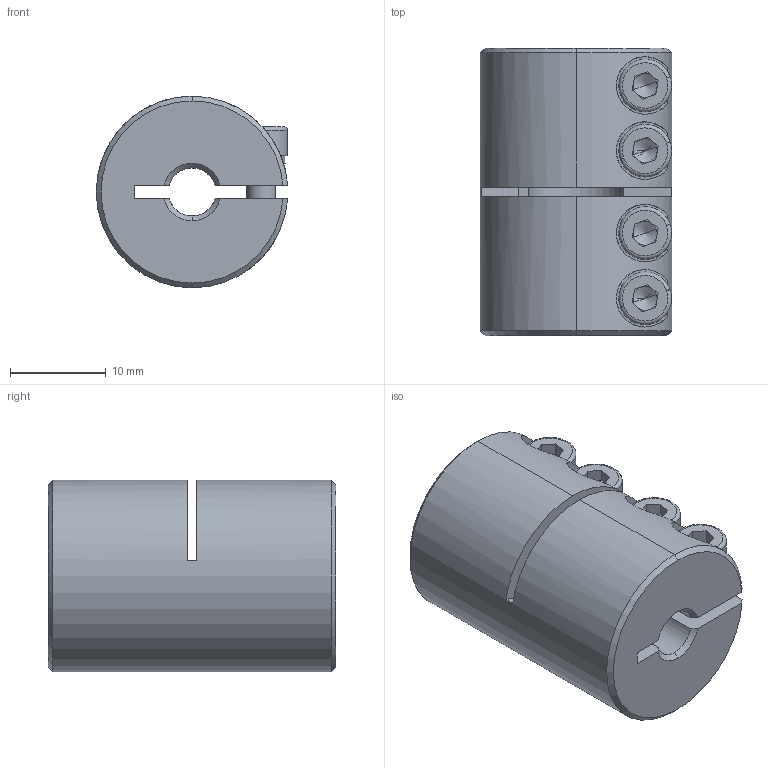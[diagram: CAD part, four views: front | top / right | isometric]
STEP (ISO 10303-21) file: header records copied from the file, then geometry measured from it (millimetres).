
FILE_DESCRIPTION (( 'STEP AP203' ), '1' );
FILE_NAME ('LL-B-D20L30-5-10.STEP', '2021-11-05T03:09:28', ( '' ), ( '' ), 'SwSTEP 2.0', 'SolidWorks 2018', '' );
FILE_SCHEMA (( 'CONFIG_CONTROL_DESIGN' ));
Length unit declared in the file: millimetre
Products named in the file (1): LL-B-D20L30-5-10
Bounding box: 19.98 x 30 x 20 mm (x, y, z)
Volume: 7281.3 mm3; surface area: 4555.2 mm2
Topology: 1 solids, 1 shells, 178 faces, 459 edges, 287 vertices
Faces by surface type: plane 89, cylinder 61, cone 20, torus 8
Entity records: 5821 total; most frequent: CARTESIAN_POINT 1349, DIRECTION 958, ORIENTED_EDGE 902, EDGE_CURVE 451, AXIS2_PLACEMENT_3D 368, VERTEX_POINT 287, VECTOR 222, LINE 222
